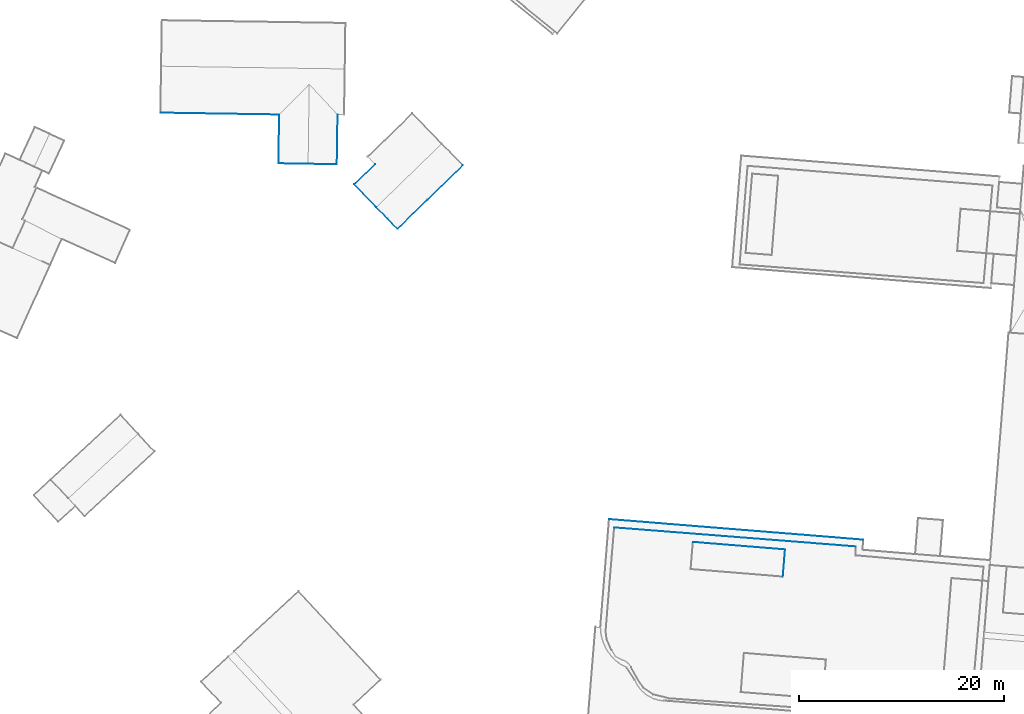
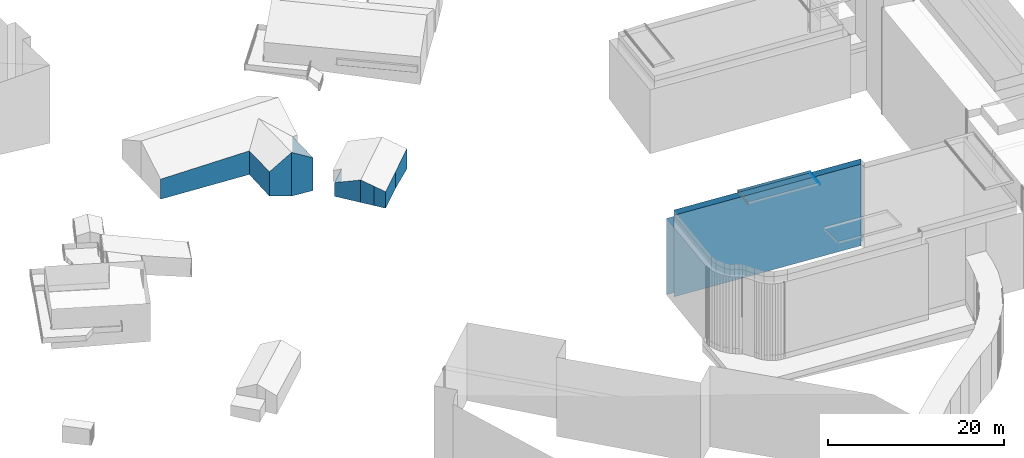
# Not in any storey, part 62 of 136: 19 walls.
"""IFC4 building model written with IfcOpenShell, lengths in metres."""

from ifc_helpers import new_model, entity, si_unit, converted_unit, frame, origin, place, context, subcontext, project, spatial, face_set, surface_model, element, save


model = new_model("IFC4")

# Units and contexts
model_context = context("Model", 3, precision=1e-05, world=origin())
body_context = subcontext(model_context, "Body", "Model", "MODEL_VIEW")
ifc_project = project(units=[converted_unit("PLANEANGLEUNIT", "DEGREE", entity("IfcRatioMeasure", 0.0174532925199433), si_unit("PLANEANGLEUNIT", "RADIAN"), dimensions=[0, 0, 0, 0, 0, 0, 0]), si_unit("AREAUNIT", "SQUARE_METRE"), si_unit("LENGTHUNIT", "METRE")], contexts=[model_context])

# Site, building
site_placement = place(None, origin())
site = spatial("IfcSite", under=ifc_project, at=site_placement, Name="_site")
building_1_placement = place(site_placement, origin())
building_1 = spatial("IfcBuilding", under=site, at=building_1_placement, Name="_building")

# Walls
wall_1_placement = place(building_1_placement, origin())
element("IfcWall", 1, at=wall_1_placement, inside=building_1, Name="Wall", PredefinedType="NOTDEFINED", context=body_context, shape_type="SurfaceModel", body=[
    surface_model("IfcFaceBasedSurfaceModel", [(153.33, 100.54, 43.45), (151.18, 102.75, 42.5), (151.18, 102.75, 40.576), (153.33, 100.54, 40.318)], [face_set([[[0, 1, 2, 3]]])]),
])
wall_2_placement = place(building_1_placement, origin())
element("IfcWall", 2, at=wall_2_placement, inside=building_1, Name="Wall", PredefinedType="NOTDEFINED", context=body_context, shape_type="SurfaceModel", body=[
    surface_model("IfcFaceBasedSurfaceModel", [(154.44, 99.4, 42.87), (153.33, 100.54, 43.45), (153.33, 100.54, 40.318), (154.44, 99.4, 40.185)], [face_set([[[0, 1, 2, 3]]])]),
])
wall_3_placement = place(building_1_placement, origin())
element("IfcWall", 3, at=wall_3_placement, inside=building_1, Name="Wall", PredefinedType="NOTDEFINED", context=body_context, shape_type="SurfaceModel", body=[
    surface_model("IfcFaceBasedSurfaceModel", [(151.18, 102.75, 42.5), (153.19, 104.7, 42.5), (153.19, 104.7, 40.529), (151.18, 102.75, 40.576)], [face_set([[[0, 1, 2, 3]]])]),
])
wall_4_placement = place(building_1_placement, origin())
element("IfcWall", 4, at=wall_4_placement, inside=building_1, Name="Wall", PredefinedType="NOTDEFINED", context=body_context, shape_type="SurfaceModel", body=[
    surface_model("IfcFaceBasedSurfaceModel", [(155.39, 98.42, 42.37), (154.44, 99.4, 42.87), (154.44, 99.4, 40.185), (155.39, 98.42, 40.071)], [face_set([[[0, 1, 2, 3]]])]),
])
wall_5_placement = place(building_1_placement, origin())
element("IfcWall", 5, at=wall_5_placement, inside=building_1, Name="Wall", PredefinedType="NOTDEFINED", context=body_context, shape_type="SurfaceModel", body=[
    surface_model("IfcFaceBasedSurfaceModel", [(161.76, 104.62, 42.37), (158.33, 101.28, 42.37), (158.33, 101.28, 40.07), (161.76, 104.62, 39.553)], [face_set([[[0, 1, 2, 3]]])]),
])
wall_6_placement = place(building_1_placement, origin())
element("IfcWall", 6, at=wall_6_placement, inside=building_1, Name="Wall", PredefinedType="NOTDEFINED", context=body_context, shape_type="SurfaceModel", body=[
    surface_model("IfcFaceBasedSurfaceModel", [(158.33, 101.28, 42.37), (155.39, 98.42, 42.37), (155.39, 98.42, 40.071), (158.33, 101.28, 40.07)], [face_set([[[0, 1, 2, 3]]])]),
])

# Building
building_2_placement = place(site_placement, origin())
building_2 = spatial("IfcBuilding", under=site, at=building_2_placement, Name="_building")

# Walls
wall_7_placement = place(building_2_placement, origin())
element("IfcWall", 7, at=wall_7_placement, inside=building_2, Name="Wall", PredefinedType="NOTDEFINED", context=body_context, shape_type="SurfaceModel", body=[
    surface_model("IfcFaceBasedSurfaceModel", [(143.87, 109.55, 45.35), (132.3, 109.73, 45.35), (132.3, 109.73, 42.555), (143.87, 109.55, 42.058)], [face_set([[[0, 1, 2, 3]]])]),
])
wall_8_placement = place(building_2_placement, origin())
element("IfcWall", 8, at=wall_8_placement, inside=building_2, Name="Wall", PredefinedType="NOTDEFINED", context=body_context, shape_type="SurfaceModel", body=[
    surface_model("IfcFaceBasedSurfaceModel", [(146.67, 104.75, 47.07), (143.79, 104.8, 45.35), (143.79, 104.8, 41.946), (146.67, 104.75, 40.984)], [face_set([[[0, 1, 2, 3]]])]),
])
wall_9_placement = place(building_2_placement, origin())
element("IfcWall", 9, at=wall_9_placement, inside=building_2, Name="Wall", PredefinedType="NOTDEFINED", context=body_context, shape_type="SurfaceModel", body=[
    surface_model("IfcFaceBasedSurfaceModel", [(143.79, 104.8, 45.35), (143.87, 109.55, 45.35), (143.87, 109.55, 42.058), (143.79, 104.8, 41.946)], [face_set([[[0, 1, 2, 3]]])]),
])
wall_10_placement = place(building_2_placement, origin())
element("IfcWall", 10, at=wall_10_placement, inside=building_2, Name="Wall", PredefinedType="NOTDEFINED", context=body_context, shape_type="SurfaceModel", body=[
    surface_model("IfcFaceBasedSurfaceModel", [(149.48, 104.71, 45.35), (146.67, 104.75, 47.07), (146.67, 104.75, 40.984), (149.48, 104.71, 40.793)], [face_set([[[0, 1, 2, 3]]])]),
])
wall_11_placement = place(building_2_placement, origin())
element("IfcWall", 11, at=wall_11_placement, inside=building_2, Name="Wall", PredefinedType="NOTDEFINED", context=body_context, shape_type="SurfaceModel", body=[
    surface_model("IfcFaceBasedSurfaceModel", [(149.55, 109.53, 45.35), (149.48, 104.71, 45.35), (149.48, 104.71, 40.793), (149.55, 109.53, 40.863)], [face_set([[[0, 1, 2, 3]]])]),
])

# Building
building_3_placement = place(site_placement, origin())
building_3 = spatial("IfcBuilding", under=site, at=building_3_placement, Name="_building")

# Walls
wall_12_placement = place(building_3_placement, origin())
element("IfcWall", 12, at=wall_12_placement, inside=building_3, Name="Wall", PredefinedType="NOTDEFINED", context=body_context, shape_type="SurfaceModel", body=[
    surface_model("IfcFaceBasedSurfaceModel", [(176.0, 70.13, 48.6), (200.77, 68.13, 48.6), (200.77, 68.13, 38.0), (176.0, 70.13, 37.991)], [face_set([[[0, 1, 2, 3]]])]),
])
for number, where, name in (
    (13, (0.0, 0.0, 0.0), "Wall"),
    (14, (0.0, 0.0, 0.0), "Wall"),
):
    element("IfcWall", number, at=place(building_3_placement, frame(where)), inside=building_3, Name=name, PredefinedType="NOTDEFINED", context=body_context, shape_type="SurfaceModel", body=[
        surface_model("IfcFaceBasedSurfaceModel", [(176.5, 69.32, 49.344), (200.04, 67.47, 49.344), (200.04, 67.47, 50.094), (176.5, 69.32, 50.094)], [face_set([[[0, 1, 2, 3]]])]),
    ])
wall_13_placement = place(building_3_placement, origin())
element("IfcWall", 15, at=wall_13_placement, inside=building_3, Name="Wall", PredefinedType="NOTDEFINED", context=body_context, shape_type="SurfaceModel", body=[
    surface_model("IfcFaceBasedSurfaceModel", [(193.14, 67.18, 51.06), (192.93, 64.53, 51.06), (192.93, 64.53, 50.71), (193.14, 67.18, 50.71)], [face_set([[[0, 1, 2, 3]]])]),
])
wall_14_placement = place(building_3_placement, origin())
element("IfcWall", 16, at=wall_14_placement, inside=building_3, Name="Wall", PredefinedType="NOTDEFINED", context=body_context, shape_type="SurfaceModel", body=[
    surface_model("IfcFaceBasedSurfaceModel", [(184.17, 67.91, 51.06), (193.14, 67.18, 51.06), (193.14, 67.18, 50.71), (184.17, 67.91, 50.71)], [face_set([[[0, 1, 2, 3]]])]),
])
wall_15_placement = place(building_3_placement, origin())
element("IfcWall", 17, at=wall_15_placement, inside=building_3, Name="Wall", PredefinedType="NOTDEFINED", context=body_context, shape_type="SurfaceModel", body=[
    surface_model("IfcFaceBasedSurfaceModel", [(193.14, 67.18, 51.06), (192.93, 64.53, 51.06), (192.93, 64.53, 50.71), (193.14, 67.18, 50.71)], [face_set([[[0, 1, 2, 3]]])]),
])
wall_16_placement = place(building_3_placement, origin())
element("IfcWall", 18, at=wall_16_placement, inside=building_3, Name="Wall", PredefinedType="NOTDEFINED", context=body_context, shape_type="SurfaceModel", body=[
    surface_model("IfcFaceBasedSurfaceModel", [(184.17, 67.91, 51.06), (193.14, 67.18, 51.06), (193.14, 67.18, 50.71), (184.17, 67.91, 50.71)], [face_set([[[0, 1, 2, 3]]])]),
])
wall_17_placement = place(building_3_placement, origin())
element("IfcWall", 19, at=wall_17_placement, inside=building_3, Name="Wall", PredefinedType="NOTDEFINED", context=body_context, shape_type="SurfaceModel", body=[
    surface_model("IfcFaceBasedSurfaceModel", [(176.5, 69.32, 49.344), (200.04, 67.47, 49.344), (200.04, 67.47, 38.0), (176.5, 69.32, 37.996)], [face_set([[[0, 1, 2, 3]]])]),
])

save(model, "model.ifc")
